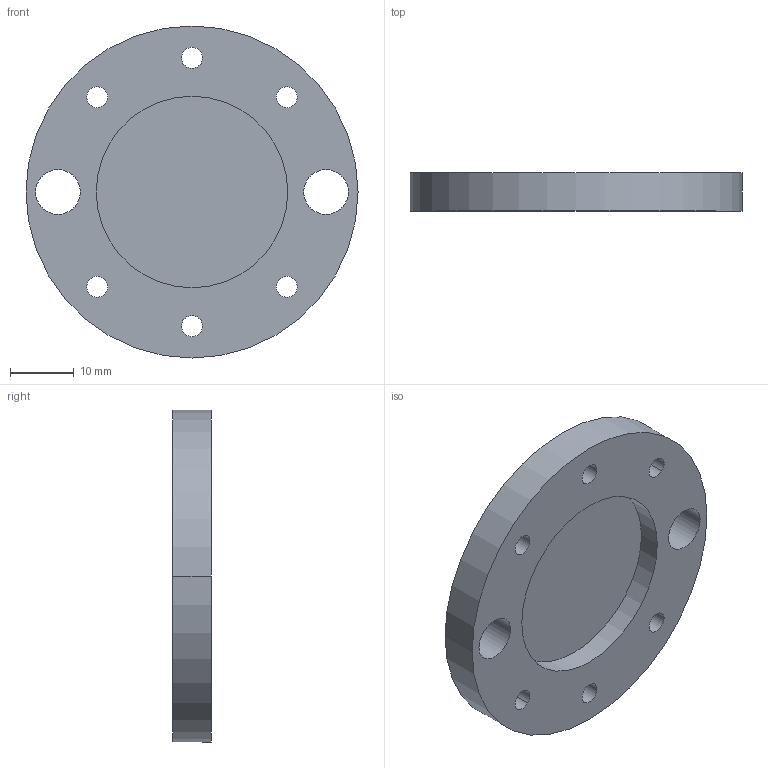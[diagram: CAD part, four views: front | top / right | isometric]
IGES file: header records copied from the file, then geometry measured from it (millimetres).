
Start section:  PTC IGES file: t-axis_view_yr-n1-06vx4-c00.igs
Global section: file name: t-axis_view_yr-n1-06vx4-c00.igs; native system: Creo Parametric by PTC Inc.; preprocessor: 2021072; author: iino20; organization: Unknown; date: 20250827.163359; units: millimetre
Bounding box: 52 x 6 x 52 mm (x, y, z)
Volume: 9498.6 mm3; surface area: 5938 mm2
Topology: 1 solids, 1 shells, 23 faces, 60 edges, 40 vertices
Faces by surface type: revolution 20, bspline 3
